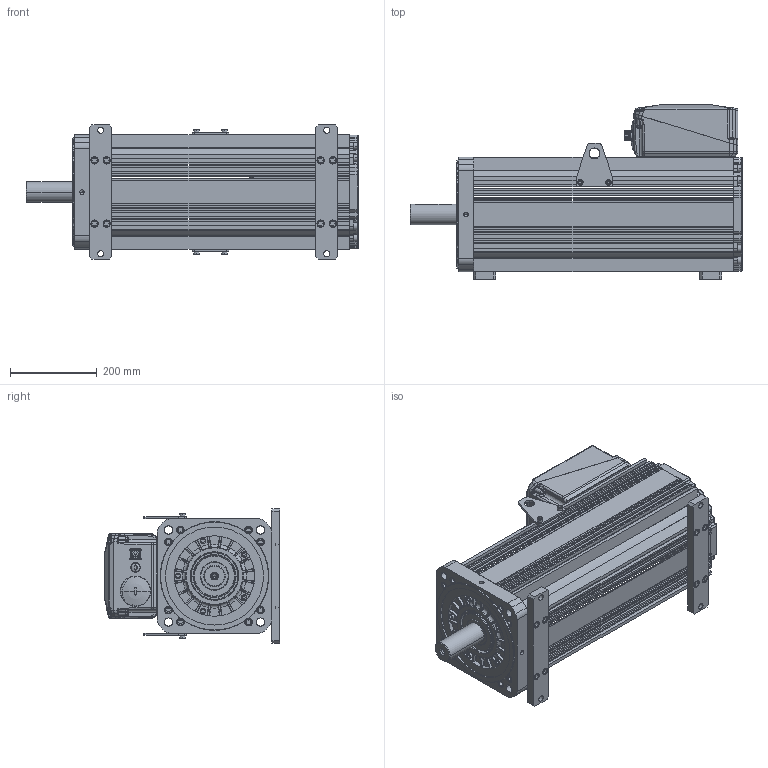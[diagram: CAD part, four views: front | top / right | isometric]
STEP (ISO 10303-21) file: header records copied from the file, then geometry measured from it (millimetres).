
FILE_DESCRIPTION((''),'2;1');
FILE_NAME('51555N-1_SW0001','2016-06-04T',('songwenquan'),(''),'PRO/ENGINEER BY PARAMETRIC TECHNOLOGY CORPORATION, 2010430','PRO/ENGINEER BY PARAMETRIC TECHNOLOGY CORPORATION, 2010430','');
FILE_SCHEMA(('CONFIG_CONTROL_DESIGN'));
Products named in the file (1): 51555N-1_SW0001
Bounding box: 765.02 x 403.62 x 309 mm (x, y, z)
Surface area: 1589996.4 mm2 (no closed solid volume)
Topology: 0 solids, 111 shells, 1894 faces, 6210 edges, 4318 vertices
Faces by surface type: plane 830, cylinder 527, bspline 259, torus 143, cone 120, sphere 15
Entity records: 93355 total; most frequent: CARTESIAN_POINT 41067, DIRECTION 10688, ORIENTED_EDGE 10045, EDGE_CURVE 6200, VERTEX_POINT 4318, AXIS2_PLACEMENT_3D 3776, VECTOR 3136, LINE 3136
